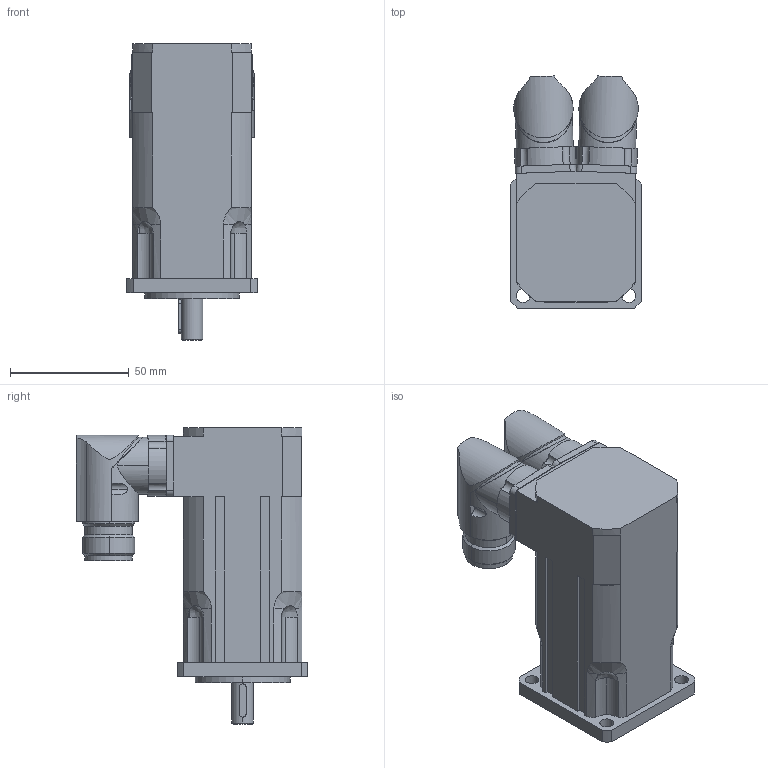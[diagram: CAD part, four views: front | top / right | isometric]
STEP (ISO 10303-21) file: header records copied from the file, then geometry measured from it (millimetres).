
FILE_DESCRIPTION(('STEP AP203'),'2;1');
FILE_NAME('MH2-0025_B.stp','2006-08-29T18:23:23',(''),(''),'2005.2.102','THINKDESIGN','');
FILE_SCHEMA(('CONFIG_CONTROL_DESIGN'));
Length unit declared in the file: millimetre
Bounding box: 55 x 97.7 x 125 mm (x, y, z)
Volume: 307590.4 mm3; surface area: 48303.7 mm2
Topology: 3 solids, 3 shells, 266 faces, 704 edges, 454 vertices
Faces by surface type: cylinder 120, plane 102, bspline 44
Entity records: 10039 total; most frequent: CARTESIAN_POINT 3358, ORIENTED_EDGE 1408, DIRECTION 1378, EDGE_CURVE 704, AXIS2_PLACEMENT_3D 528, VERTEX_POINT 454, VECTOR 322, LINE 322
